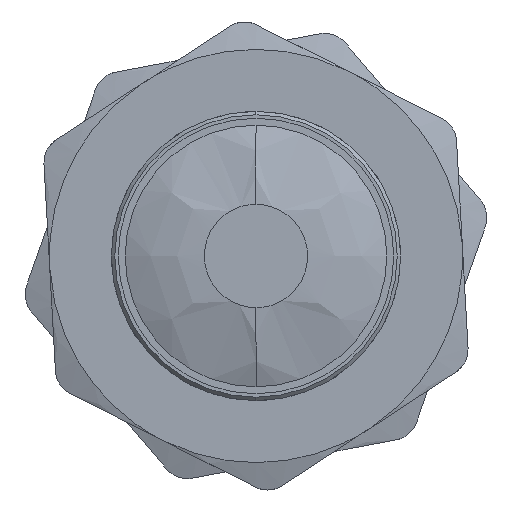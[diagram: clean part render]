
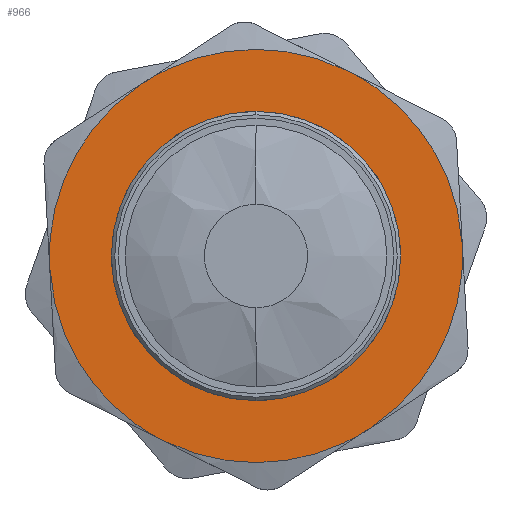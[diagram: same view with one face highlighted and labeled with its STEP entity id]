
A CAD part, left-side view. The second image highlights one B-rep face of the part: STEP entity #966.
In plain terms, the highlighted planar face has unit normal (-1, 0, 0) as drawn and (1, 0, 0) by its records, which use the part's own axes.
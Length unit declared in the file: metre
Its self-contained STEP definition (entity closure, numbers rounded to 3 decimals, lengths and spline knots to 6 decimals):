
#49 = CARTESIAN_POINT ( 'NONE',  ( 0.005, -0.03036, 0.03036 ) ) ;
#116 = CIRCLE ( 'NONE', #1417, 0.021 ) ;
#142 = DIRECTION ( 'NONE',  ( 1., 0., 0. ) ) ;
#158 = ORIENTED_EDGE ( 'NONE', *, *, #2082, .F. ) ;
#188 = CARTESIAN_POINT ( 'NONE',  ( 0.005, -0.025981, -0.015 ) ) ;
#197 = VERTEX_POINT ( 'NONE', #833 ) ;
#226 = PLANE ( 'NONE',  #1069 ) ;
#274 = CIRCLE ( 'NONE', #1707, 0.021 ) ;
#297 = ORIENTED_EDGE ( 'NONE', *, *, #878, .T. ) ;
#347 = EDGE_CURVE ( 'NONE', #856, #1440, #1880, .T. ) ;
#431 = CARTESIAN_POINT ( 'NONE',  ( 0.005, -0.025981, 0.015 ) ) ;
#450 = ORIENTED_EDGE ( 'NONE', *, *, #926, .T. ) ;
#456 = FACE_BOUND ( 'NONE', #1134, .T. ) ;
#499 = VERTEX_POINT ( 'NONE', #2247 ) ;
#520 = CARTESIAN_POINT ( 'NONE',  ( 0.005, -0.02049, -0.02451 ) ) ;
#664 = CARTESIAN_POINT ( 'NONE',  ( 0.005, 0., 0. ) ) ;
#680 = CARTESIAN_POINT ( 'NONE',  ( 0.005, 0.025981, -0.015 ) ) ;
#687 = CARTESIAN_POINT ( 'NONE',  ( 0.005, 0., -0.03 ) ) ;
#704 = VERTEX_POINT ( 'NONE', #188 ) ;
#730 = ORIENTED_EDGE ( 'NONE', *, *, #1244, .T. ) ;
#750 =( BOUNDED_CURVE ( )  B_SPLINE_CURVE ( 3, ( #2189, #1128, #1066, #1633 ),
 .UNSPECIFIED., .F., .F. ) 
 B_SPLINE_CURVE_WITH_KNOTS ( ( 4, 4 ),
 ( 0., 0.031289 ),
 .UNSPECIFIED. ) 
 CURVE ( )  GEOMETRIC_REPRESENTATION_ITEM ( )  RATIONAL_B_SPLINE_CURVE ( ( 0.998, 0.909, 0.909, 0.998 ) ) 
 REPRESENTATION_ITEM ( '' )  );
#769 =( BOUNDED_CURVE ( )  B_SPLINE_CURVE ( 3, ( #687, #1928, #2105, #1055 ),
 .UNSPECIFIED., .F., .F. ) 
 B_SPLINE_CURVE_WITH_KNOTS ( ( 4, 4 ),
 ( 0., 0.031289 ),
 .UNSPECIFIED. ) 
 CURVE ( )  GEOMETRIC_REPRESENTATION_ITEM ( )  RATIONAL_B_SPLINE_CURVE ( ( 0.998, 0.909, 0.909, 0.998 ) ) 
 REPRESENTATION_ITEM ( '' )  );
#833 = CARTESIAN_POINT ( 'NONE',  ( 0.005, 0., -0.03 ) ) ;
#847 = DIRECTION ( 'NONE',  ( 0., 0., -1. ) ) ;
#856 = VERTEX_POINT ( 'NONE', #1482 ) ;
#878 = EDGE_CURVE ( 'NONE', #1440, #704, #750, .T. ) ;
#926 = EDGE_CURVE ( 'NONE', #499, #856, #2057, .T. ) ;
#937 = CARTESIAN_POINT ( 'NONE',  ( 0.005, 0.010977, 0.03 ) ) ;
#950 = CARTESIAN_POINT ( 'NONE',  ( 0.005, -0.025981, 0.015 ) ) ;
#958 = CARTESIAN_POINT ( 'NONE',  ( 0.005, 0.025981, 0.015 ) ) ;
#966 = ADVANCED_FACE ( 'NONE', ( #456, #1361 ), #226, .T. ) ;
#987 = VERTEX_POINT ( 'NONE', #1490 ) ;
#1052 = CARTESIAN_POINT ( 'NONE',  ( 0.005, 0.031471, -0.00549 ) ) ;
#1055 = CARTESIAN_POINT ( 'NONE',  ( 0.005, 0.025981, -0.015 ) ) ;
#1066 = CARTESIAN_POINT ( 'NONE',  ( 0.005, -0.031471, -0.00549 ) ) ;
#1069 = AXIS2_PLACEMENT_3D ( 'NONE', #49, #1648, #1487 ) ;
#1074 = CARTESIAN_POINT ( 'NONE',  ( 0.005, 0., -0.03 ) ) ;
#1128 = CARTESIAN_POINT ( 'NONE',  ( 0.005, -0.031471, 0.00549 ) ) ;
#1134 = EDGE_LOOP ( 'NONE', ( #1364, #158 ) ) ;
#1149 =( BOUNDED_CURVE ( )  B_SPLINE_CURVE ( 3, ( #680, #1052, #2277, #1233 ),
 .UNSPECIFIED., .F., .F. ) 
 B_SPLINE_CURVE_WITH_KNOTS ( ( 4, 4 ),
 ( 0., 0.031289 ),
 .UNSPECIFIED. ) 
 CURVE ( )  GEOMETRIC_REPRESENTATION_ITEM ( )  RATIONAL_B_SPLINE_CURVE ( ( 0.998, 0.909, 0.909, 0.998 ) ) 
 REPRESENTATION_ITEM ( '' )  );
#1172 = EDGE_CURVE ( 'NONE', #1491, #987, #116, .T. ) ;
#1226 = CARTESIAN_POINT ( 'NONE',  ( 0.005, 0., 0. ) ) ;
#1233 = CARTESIAN_POINT ( 'NONE',  ( 0.005, 0.025981, 0.015 ) ) ;
#1244 = EDGE_CURVE ( 'NONE', #197, #1694, #769, .T. ) ;
#1304 = EDGE_CURVE ( 'NONE', #704, #197, #1530, .T. ) ;
#1361 = FACE_OUTER_BOUND ( 'NONE', #1628, .T. ) ;
#1364 = ORIENTED_EDGE ( 'NONE', *, *, #1172, .F. ) ;
#1402 = DIRECTION ( 'NONE',  ( 0., 0., -1. ) ) ;
#1417 = AXIS2_PLACEMENT_3D ( 'NONE', #664, #1912, #847 ) ;
#1440 = VERTEX_POINT ( 'NONE', #431 ) ;
#1482 = CARTESIAN_POINT ( 'NONE',  ( 0.005, 0., 0.03 ) ) ;
#1487 = DIRECTION ( 'NONE',  ( 0., 0., -1. ) ) ;
#1490 = CARTESIAN_POINT ( 'NONE',  ( 0.005, 0., 0.021 ) ) ;
#1491 = VERTEX_POINT ( 'NONE', #1685 ) ;
#1530 =( BOUNDED_CURVE ( )  B_SPLINE_CURVE ( 3, ( #1774, #520, #2127, #1074 ),
 .UNSPECIFIED., .F., .F. ) 
 B_SPLINE_CURVE_WITH_KNOTS ( ( 4, 4 ),
 ( 0., 0.031289 ),
 .UNSPECIFIED. ) 
 CURVE ( )  GEOMETRIC_REPRESENTATION_ITEM ( )  RATIONAL_B_SPLINE_CURVE ( ( 0.998, 0.909, 0.909, 0.998 ) ) 
 REPRESENTATION_ITEM ( '' )  );
#1628 = EDGE_LOOP ( 'NONE', ( #1846, #297, #2289, #730, #2168, #450 ) ) ;
#1633 = CARTESIAN_POINT ( 'NONE',  ( 0.005, -0.025981, -0.015 ) ) ;
#1648 = DIRECTION ( 'NONE',  ( 1., 0., 0. ) ) ;
#1649 = CARTESIAN_POINT ( 'NONE',  ( 0.005, -0.02049, 0.02451 ) ) ;
#1685 = CARTESIAN_POINT ( 'NONE',  ( 0.005, 0., -0.021 ) ) ;
#1694 = VERTEX_POINT ( 'NONE', #2300 ) ;
#1707 = AXIS2_PLACEMENT_3D ( 'NONE', #1226, #142, #1402 ) ;
#1774 = CARTESIAN_POINT ( 'NONE',  ( 0.005, -0.025981, -0.015 ) ) ;
#1818 = CARTESIAN_POINT ( 'NONE',  ( 0.005, 0.020489, 0.024513 ) ) ;
#1846 = ORIENTED_EDGE ( 'NONE', *, *, #347, .T. ) ;
#1880 =( BOUNDED_CURVE ( )  B_SPLINE_CURVE ( 3, ( #2294, #2001, #1649, #950 ),
 .UNSPECIFIED., .F., .F. ) 
 B_SPLINE_CURVE_WITH_KNOTS ( ( 4, 4 ),
 ( 0., 0.031289 ),
 .UNSPECIFIED. ) 
 CURVE ( )  GEOMETRIC_REPRESENTATION_ITEM ( )  RATIONAL_B_SPLINE_CURVE ( ( 0.998, 0.909, 0.909, 0.998 ) ) 
 REPRESENTATION_ITEM ( '' )  );
#1912 = DIRECTION ( 'NONE',  ( 1., 0., 0. ) ) ;
#1928 = CARTESIAN_POINT ( 'NONE',  ( 0.005, 0.010981, -0.03 ) ) ;
#2001 = CARTESIAN_POINT ( 'NONE',  ( 0.005, -0.010981, 0.03 ) ) ;
#2057 =( BOUNDED_CURVE ( )  B_SPLINE_CURVE ( 3, ( #958, #1818, #937, #2179 ),
 .UNSPECIFIED., .F., .F. ) 
 B_SPLINE_CURVE_WITH_KNOTS ( ( 4, 4 ),
 ( 0., 0.031289 ),
 .UNSPECIFIED. ) 
 CURVE ( )  GEOMETRIC_REPRESENTATION_ITEM ( )  RATIONAL_B_SPLINE_CURVE ( ( 0.998, 0.91, 0.91, 1. ) ) 
 REPRESENTATION_ITEM ( '' )  );
#2082 = EDGE_CURVE ( 'NONE', #987, #1491, #274, .T. ) ;
#2105 = CARTESIAN_POINT ( 'NONE',  ( 0.005, 0.02049, -0.02451 ) ) ;
#2127 = CARTESIAN_POINT ( 'NONE',  ( 0.005, -0.010981, -0.03 ) ) ;
#2168 = ORIENTED_EDGE ( 'NONE', *, *, #2296, .T. ) ;
#2179 = CARTESIAN_POINT ( 'NONE',  ( 0.005, 0., 0.03 ) ) ;
#2189 = CARTESIAN_POINT ( 'NONE',  ( 0.005, -0.025981, 0.015 ) ) ;
#2247 = CARTESIAN_POINT ( 'NONE',  ( 0.005, 0.025981, 0.015 ) ) ;
#2277 = CARTESIAN_POINT ( 'NONE',  ( 0.005, 0.031471, 0.00549 ) ) ;
#2289 = ORIENTED_EDGE ( 'NONE', *, *, #1304, .T. ) ;
#2294 = CARTESIAN_POINT ( 'NONE',  ( 0.005, 0., 0.03 ) ) ;
#2296 = EDGE_CURVE ( 'NONE', #1694, #499, #1149, .T. ) ;
#2300 = CARTESIAN_POINT ( 'NONE',  ( 0.005, 0.025981, -0.015 ) ) ;
